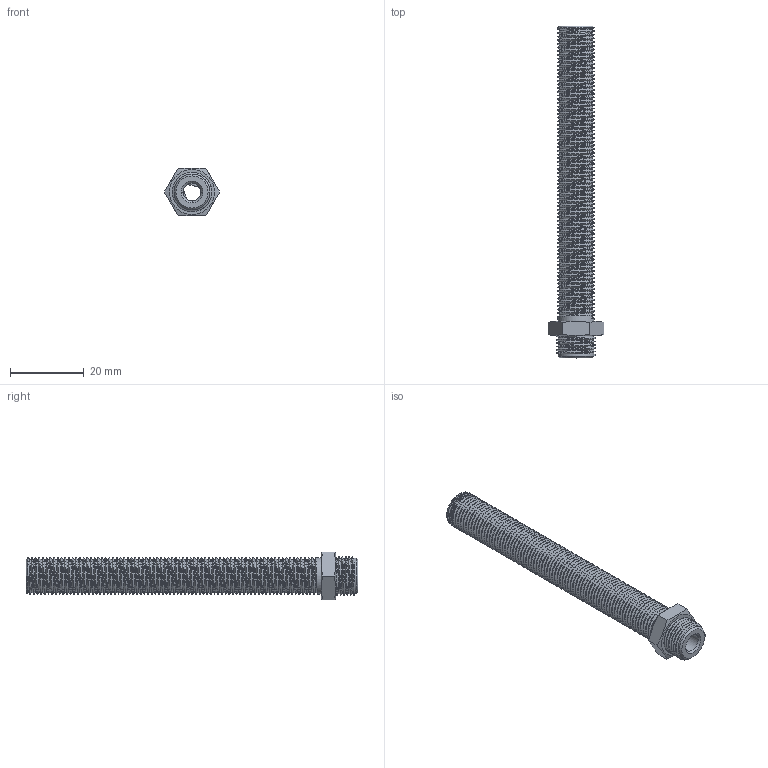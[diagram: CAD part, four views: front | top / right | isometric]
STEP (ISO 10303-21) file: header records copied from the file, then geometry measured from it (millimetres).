
FILE_DESCRIPTION (( 'STEP AP203' ), '1' );
FILE_NAME ('Schott_80_1_8_1.STEP', '2025-03-31T09:53:55', ( '' ), ( '' ), 'SwSTEP 2.0', 'SolidWorks 2022', '' );
FILE_SCHEMA (( 'CONFIG_CONTROL_DESIGN' ));
Length unit declared in the file: millimetre
Products named in the file (1): Schott_80_1_8_1
Bounding box: 15.01 x 90 x 13 mm (x, y, z)
Volume: 5107.5 mm3; surface area: 6119 mm2
Topology: 1 solids, 1 shells, 122 faces, 352 edges, 234 vertices
Faces by surface type: cylinder 92, plane 15, bspline 9, cone 6
Full cylindrical faces by diameter (mm): 4.9 x10, 10 x78
Entity records: 15623 total; most frequent: CARTESIAN_POINT 14909, ORIENTED_EDGE 152, DIRECTION 90, EDGE_CURVE 76, VERTEX_POINT 53, EDGE_LOOP 45, AXIS2_PLACEMENT_3D 37, FACE_OUTER_BOUND 36
